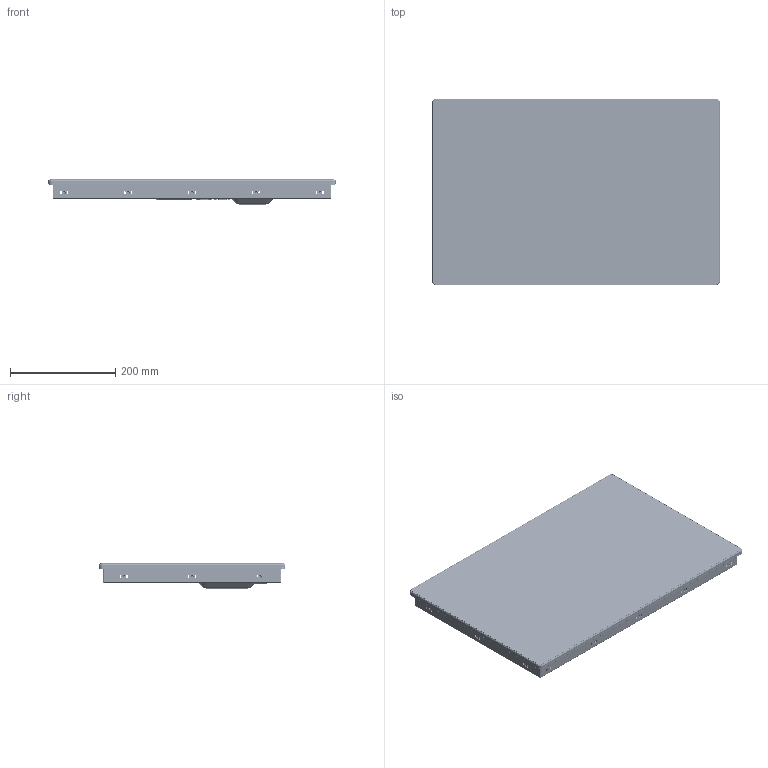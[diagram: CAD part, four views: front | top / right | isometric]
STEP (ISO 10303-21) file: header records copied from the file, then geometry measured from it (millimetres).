
FILE_DESCRIPTION (( 'STEP AP214' ), '1' );
FILE_NAME ('cMT3218XP.STEP', '2025-04-23T03:29:30', ( '' ), ( '' ), 'SwSTEP 2.0', 'SolidWorks 2019', '' );
FILE_SCHEMA (( 'AUTOMOTIVE_DESIGN' ));
Length unit declared in the file: millimetre
Products named in the file (32): SHELL-1; CUZA170-A005; cMT3218XP; PRT0002_1-3; FS1030600; SCREW-1; FEZCM2110_180419; FLFE16020; FS103006W; FEF32FX10_250310; 勝遠52F 8P8C DIP 屏蔽_后3.05; 平頭拉釘7.6L; FEB32FX10_250421; DINKLE_5EHDVC-XXP_1; PRT0002_1-1; FEF32FX10-1_250307; PRT0002-1; 4 Pin PH-FXXD01; SCREW-3; WDBF-09-JFBV21.; FEZED5240_201016; SHELL-3; WDBM-09-JFBV21; SCREW_1-3; PMC32FX10-PCBA 3568A_21 V1.0 for cMT321PXP; SCREW_1-1; PRT0001-4; KTM922800_250422; 10 Pin PH-FXXD01; PRT0002-3; PMC32FP11-PCBA 21PR V1.1 for cMT3219XP-250421; PRT0001-2
Assembly tree (85 placements, depth 4):
  cMT3218XP
    FEF32FX10_250310
      FEF32FX10-1_250307
      平頭拉釘7.6L  x31
    KTM922800_250422
    FS103006W  x6
    FS1030600  x18
    PMC32FP11-PCBA 21PR V1.1 for cMT3219XP-250421
      DINKLE_5EHDVC-XXP_1
    PMC32FX10-PCBA 3568A_21 V1.0 for cMT321PXP
      WDBF-09-JFBV21.
        SHELL-1
        PRT0001-2
        PRT0002-1
        PRT0002_1-1
        SCREW-1
        SCREW_1-1
      WDBM-09-JFBV21
        SHELL-3
        PRT0001-4
        PRT0002-3
        PRT0002_1-3
        SCREW-3
        SCREW_1-3
      CUZA170-A005
      勝遠52F 8P8C DIP 屏蔽_后3.05  x2
      4 Pin PH-FXXD01
      10 Pin PH-FXXD01
    FEZCM2110_180419
    FEB32FX10_250421
    FLFE16020
    FEZED5240_201016
    平頭拉釘7.6L
Bounding box: 546 x 354 x 47.54 mm (x, y, z)
Volume: 1124784.5 mm3; surface area: 1167631.6 mm2
Topology: 114 solids, 127 shells, 4986 faces, 13054 edges, 8605 vertices
Faces by surface type: plane 2992, cylinder 1358, bspline 292, cone 255, torus 76, sphere 13
Full cylindrical faces by diameter (mm): 0.055 x1, 0.064 x2, 0.084 x2, 0.086 x1, 0.088 x1, 0.096 x1, 0.098 x1, 0.248 x1, 0.278 x1, 0.415 x2, 0.444 x2, 0.6 x9, 0.64 x9, 0.7 x6, 0.8 x2, 1 x27, 1.1 x9, 1.2 x2, 1.3 x2, 1.5 x2, 1.7 x2, 1.9 x32, 2.5 x12, 2.72 x16, 3 x24, 3.1 x4, 3.19 x8, 3.232 x4, 3.242 x4, 3.3 x63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
Entity records: 146987 total; most frequent: CARTESIAN_POINT 48657, ORIENTED_EDGE 18726, DIRECTION 17647, EDGE_CURVE 9425, VERTEX_POINT 6474, AXIS2_PLACEMENT_3D 5909, VECTOR 5829, LINE 5829
